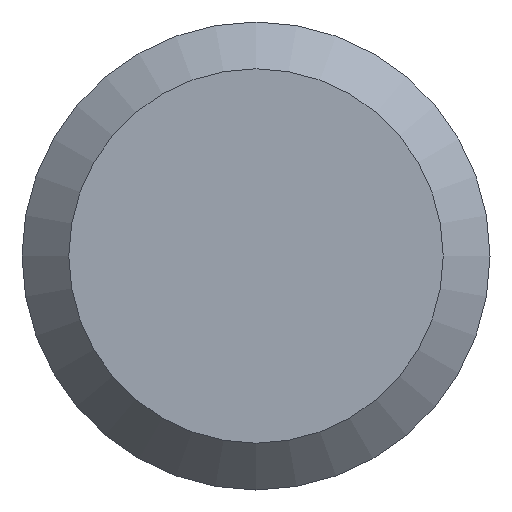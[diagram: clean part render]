
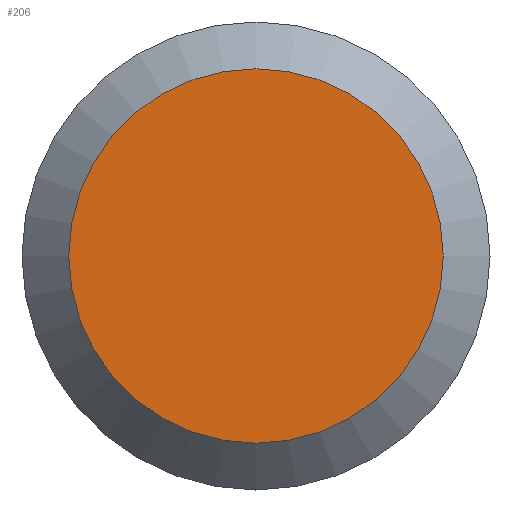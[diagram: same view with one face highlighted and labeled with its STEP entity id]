
A CAD part, left-side view. The second image highlights one B-rep face of the part: STEP entity #206.
In plain terms, the highlighted planar face has unit normal (-1, 0, 0).
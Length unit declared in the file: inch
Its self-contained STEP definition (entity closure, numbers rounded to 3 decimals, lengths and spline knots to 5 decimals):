
#21 = EDGE_LOOP ( 'NONE', ( #29 ) ) ;
#24 = CARTESIAN_POINT ( 'NONE',  ( 0., 0., -0.0328 ) ) ;
#29 = ORIENTED_EDGE ( 'NONE', *, *, #198, .T. ) ;
#110 = FACE_OUTER_BOUND ( 'NONE', #21, .T. ) ;
#121 = AXIS2_PLACEMENT_3D ( 'NONE', #177, #179, #133 ) ;
#133 = DIRECTION ( 'NONE',  ( 0., 0., -1. ) ) ;
#135 = DIRECTION ( 'NONE',  ( 1., 0., 0. ) ) ;
#138 = DIRECTION ( 'NONE',  ( 0., 0., -1. ) ) ;
#177 = CARTESIAN_POINT ( 'NONE',  ( 0., 0., 0. ) ) ;
#179 = DIRECTION ( 'NONE',  ( -1., 0., 0. ) ) ;
#198 = EDGE_CURVE ( 'NONE', #201, #201, #221, .T. ) ;
#201 = VERTEX_POINT ( 'NONE', #24 ) ;
#206 = ADVANCED_FACE ( 'NONE', ( #110 ), #228, .F. ) ;
#221 = CIRCLE ( 'NONE', #121, 0.0328 ) ;
#228 = PLANE ( 'NONE',  #241 ) ;
#241 = AXIS2_PLACEMENT_3D ( 'NONE', #245, #135, #138 ) ;
#245 = CARTESIAN_POINT ( 'NONE',  ( 0., 0.041, 0. ) ) ;
